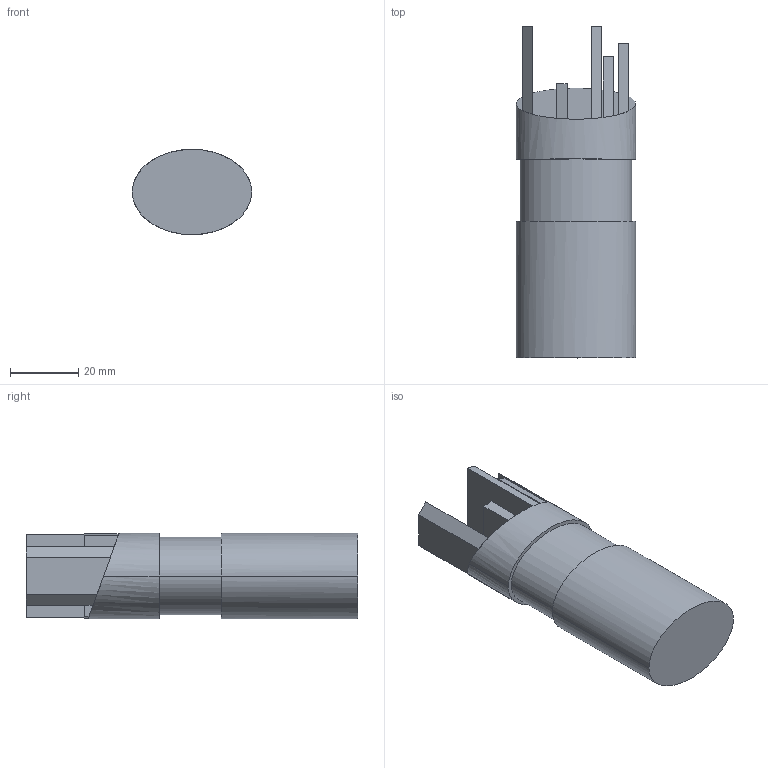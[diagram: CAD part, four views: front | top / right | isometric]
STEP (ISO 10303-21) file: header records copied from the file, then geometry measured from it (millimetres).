
FILE_DESCRIPTION (( 'STEP AP214' ), '1' );
FILE_NAME ('Totem.STEP', '2013-11-25T15:39:48', ( '' ), ( '' ), 'SwSTEP 2.0', 'SolidWorks 2012', '' );
FILE_SCHEMA (( 'AUTOMOTIVE_DESIGN' ));
Length unit declared in the file: millimetre
Products named in the file (1): Totem
Bounding box: 35 x 97.31 x 25 mm (x, y, z)
Volume: 53918.7 mm3; surface area: 12244.5 mm2
Topology: 1 solids, 1 shells, 50 faces, 98 edges, 52 vertices
Faces by surface type: plane 44, bspline 6
Entity records: 1662 total; most frequent: CARTESIAN_POINT 723, ORIENTED_EDGE 196, DIRECTION 154, EDGE_CURVE 98, LINE 64, VECTOR 64, EDGE_LOOP 52, VERTEX_POINT 52
